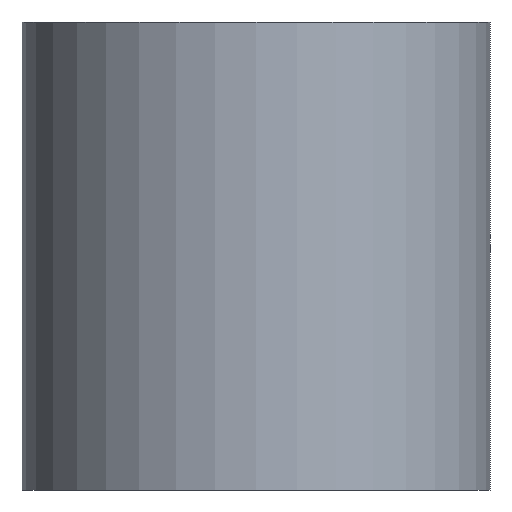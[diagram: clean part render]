
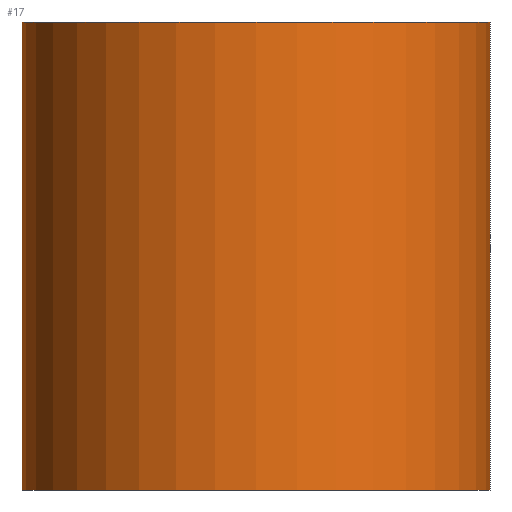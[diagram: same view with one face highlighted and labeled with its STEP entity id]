
A CAD part, front view. The second image highlights one B-rep face of the part: STEP entity #17.
In plain terms, the highlighted cylindrical face has radius 5 mm (diameter 10 mm), a full revolution.
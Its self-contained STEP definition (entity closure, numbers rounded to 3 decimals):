
#17 = ADVANCED_FACE('',(#18),#32,.T.);
#18 = FACE_BOUND('',#19,.F.);
#19 = EDGE_LOOP('',(#20,#50,#77,#78));
#20 = ORIENTED_EDGE('',*,*,#21,.T.);
#21 = EDGE_CURVE('',#22,#24,#26,.T.);
#22 = VERTEX_POINT('',#23);
#23 = CARTESIAN_POINT('',(6.,5.,73.5));
#24 = VERTEX_POINT('',#25);
#25 = CARTESIAN_POINT('',(6.,5.,83.5));
#26 = SEAM_CURVE('',#27,(#31,#43),.PCURVE_S1.);
#27 = LINE('',#28,#29);
#28 = CARTESIAN_POINT('',(6.,5.,73.5));
#29 = VECTOR('',#30,1.);
#30 = DIRECTION('',(0.,0.,1.));
#31 = PCURVE('',#32,#37);
#32 = CYLINDRICAL_SURFACE('',#33,5.);
#33 = AXIS2_PLACEMENT_3D('',#34,#35,#36);
#34 = CARTESIAN_POINT('',(6.,0.,73.5));
#35 = DIRECTION('',(-0.,0.,-1.));
#36 = DIRECTION('',(0.,1.,0.));
#37 = DEFINITIONAL_REPRESENTATION('',(#38),#42);
#38 = LINE('',#39,#40);
#39 = CARTESIAN_POINT('',(-0.,0.));
#40 = VECTOR('',#41,1.);
#41 = DIRECTION('',(-0.,-1.));
#42 = ( GEOMETRIC_REPRESENTATION_CONTEXT(2) 
PARAMETRIC_REPRESENTATION_CONTEXT() REPRESENTATION_CONTEXT('2D SPACE',''
  ) );
#43 = PCURVE('',#32,#44);
#44 = DEFINITIONAL_REPRESENTATION('',(#45),#49);
#45 = LINE('',#46,#47);
#46 = CARTESIAN_POINT('',(-6.283,0.));
#47 = VECTOR('',#48,1.);
#48 = DIRECTION('',(-0.,-1.));
#49 = ( GEOMETRIC_REPRESENTATION_CONTEXT(2) 
PARAMETRIC_REPRESENTATION_CONTEXT() REPRESENTATION_CONTEXT('2D SPACE',''
  ) );
#50 = ORIENTED_EDGE('',*,*,#51,.T.);
#51 = EDGE_CURVE('',#24,#24,#52,.T.);
#52 = SURFACE_CURVE('',#53,(#58,#65),.PCURVE_S1.);
#53 = CIRCLE('',#54,5.);
#54 = AXIS2_PLACEMENT_3D('',#55,#56,#57);
#55 = CARTESIAN_POINT('',(6.,0.,83.5));
#56 = DIRECTION('',(0.,-0.,1.));
#57 = DIRECTION('',(0.,1.,0.));
#58 = PCURVE('',#32,#59);
#59 = DEFINITIONAL_REPRESENTATION('',(#60),#64);
#60 = LINE('',#61,#62);
#61 = CARTESIAN_POINT('',(-0.,-10.));
#62 = VECTOR('',#63,1.);
#63 = DIRECTION('',(-1.,0.));
#64 = ( GEOMETRIC_REPRESENTATION_CONTEXT(2) 
PARAMETRIC_REPRESENTATION_CONTEXT() REPRESENTATION_CONTEXT('2D SPACE',''
  ) );
#65 = PCURVE('',#66,#71);
#66 = PLANE('',#67);
#67 = AXIS2_PLACEMENT_3D('',#68,#69,#70);
#68 = CARTESIAN_POINT('',(6.,0.,83.5));
#69 = DIRECTION('',(0.,0.,1.));
#70 = DIRECTION('',(1.,0.,-0.));
#71 = DEFINITIONAL_REPRESENTATION('',(#72),#76);
#72 = CIRCLE('',#73,5.);
#73 = AXIS2_PLACEMENT_2D('',#74,#75);
#74 = CARTESIAN_POINT('',(0.,0.));
#75 = DIRECTION('',(0.,1.));
#76 = ( GEOMETRIC_REPRESENTATION_CONTEXT(2) 
PARAMETRIC_REPRESENTATION_CONTEXT() REPRESENTATION_CONTEXT('2D SPACE',''
  ) );
#77 = ORIENTED_EDGE('',*,*,#21,.F.);
#78 = ORIENTED_EDGE('',*,*,#79,.F.);
#79 = EDGE_CURVE('',#22,#22,#80,.T.);
#80 = SURFACE_CURVE('',#81,(#86,#93),.PCURVE_S1.);
#81 = CIRCLE('',#82,5.);
#82 = AXIS2_PLACEMENT_3D('',#83,#84,#85);
#83 = CARTESIAN_POINT('',(6.,0.,73.5));
#84 = DIRECTION('',(0.,-0.,1.));
#85 = DIRECTION('',(0.,1.,0.));
#86 = PCURVE('',#32,#87);
#87 = DEFINITIONAL_REPRESENTATION('',(#88),#92);
#88 = LINE('',#89,#90);
#89 = CARTESIAN_POINT('',(-0.,0.));
#90 = VECTOR('',#91,1.);
#91 = DIRECTION('',(-1.,0.));
#92 = ( GEOMETRIC_REPRESENTATION_CONTEXT(2) 
PARAMETRIC_REPRESENTATION_CONTEXT() REPRESENTATION_CONTEXT('2D SPACE',''
  ) );
#93 = PCURVE('',#94,#99);
#94 = PLANE('',#95);
#95 = AXIS2_PLACEMENT_3D('',#96,#97,#98);
#96 = CARTESIAN_POINT('',(6.,0.,73.5));
#97 = DIRECTION('',(0.,0.,1.));
#98 = DIRECTION('',(1.,0.,-0.));
#99 = DEFINITIONAL_REPRESENTATION('',(#100),#104);
#100 = CIRCLE('',#101,5.);
#101 = AXIS2_PLACEMENT_2D('',#102,#103);
#102 = CARTESIAN_POINT('',(0.,0.));
#103 = DIRECTION('',(0.,1.));
#104 = ( GEOMETRIC_REPRESENTATION_CONTEXT(2) 
PARAMETRIC_REPRESENTATION_CONTEXT() REPRESENTATION_CONTEXT('2D SPACE',''
  ) );
